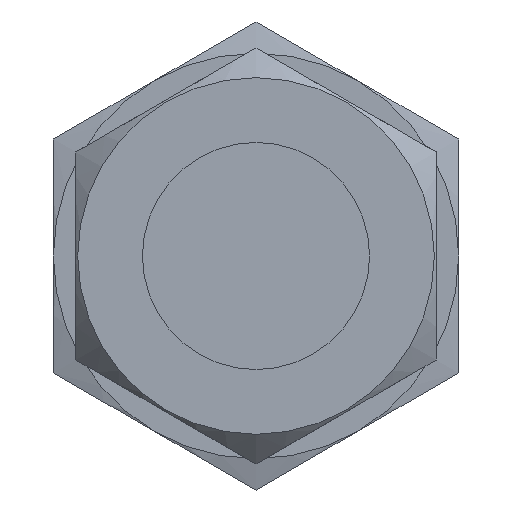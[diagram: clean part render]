
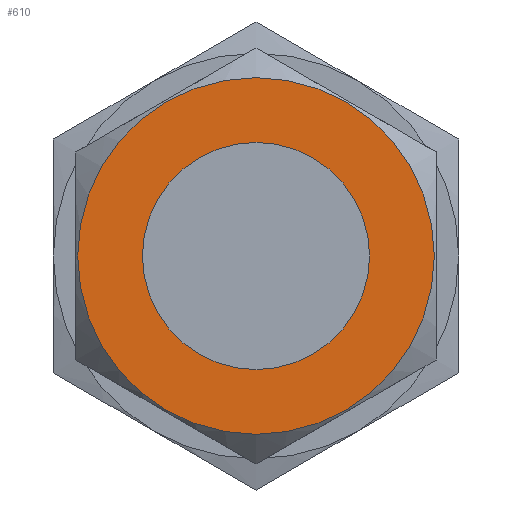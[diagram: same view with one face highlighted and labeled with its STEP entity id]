
A CAD part, left-side view. The second image highlights one B-rep face of the part: STEP entity #610.
In plain terms, the highlighted planar face has unit normal (-1, 0, 0).
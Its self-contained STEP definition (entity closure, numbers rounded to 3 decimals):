
#610 = ADVANCED_FACE( '', ( #1430, #1431 ), #1432, .T. );
#1430 = FACE_BOUND( '', #2505, .T. );
#1431 = FACE_OUTER_BOUND( '', #2506, .T. );
#1432 = PLANE( '', #2507 );
#2505 = EDGE_LOOP( '', ( #4431 ) );
#2506 = EDGE_LOOP( '', ( #4432 ) );
#2507 = AXIS2_PLACEMENT_3D( '', #4433, #4434, #4435 );
#4431 = ORIENTED_EDGE( '', *, *, #6200, .T. );
#4432 = ORIENTED_EDGE( '', *, *, #5761, .F. );
#4433 = CARTESIAN_POINT( '', ( -51.816, 25.448, -25.448 ) );
#4434 = DIRECTION( '', ( -1., 0., 0. ) );
#4435 = DIRECTION( '', ( 0., -1., 0. ) );
#5761 = EDGE_CURVE( '', #6748, #6748, #6749, .F. );
#6200 = EDGE_CURVE( '', #7455, #7455, #7456, .F. );
#6748 = VERTEX_POINT( '', #8250 );
#6749 = CIRCLE( '', #8251, 25.146 );
#7455 = VERTEX_POINT( '', #9923 );
#7456 = CIRCLE( '', #9924, 16.015 );
#8250 = CARTESIAN_POINT( '', ( -51.816, 0., 25.146 ) );
#8251 = AXIS2_PLACEMENT_3D( '', #10893, #10894, #10895 );
#9923 = CARTESIAN_POINT( '', ( -51.816, 0., 16.015 ) );
#9924 = AXIS2_PLACEMENT_3D( '', #11175, #11176, #11177 );
#10893 = CARTESIAN_POINT( '', ( -51.816, 0., 0. ) );
#10894 = DIRECTION( '', ( -1., 0., 0. ) );
#10895 = DIRECTION( '', ( 0., 0., 1. ) );
#11175 = CARTESIAN_POINT( '', ( -51.816, 0., 0. ) );
#11176 = DIRECTION( '', ( -1., 0., 0. ) );
#11177 = DIRECTION( '', ( 0., 0., 1. ) );
